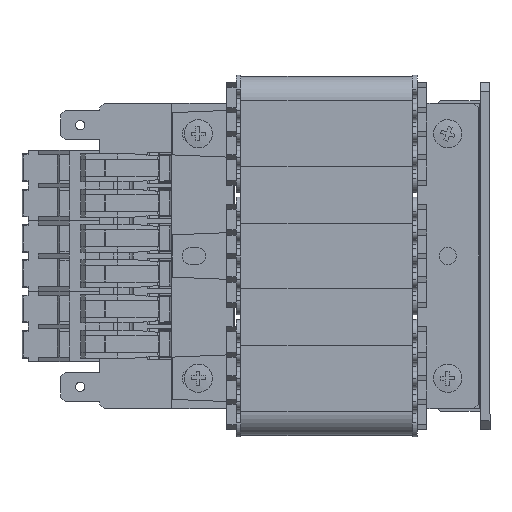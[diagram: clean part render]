
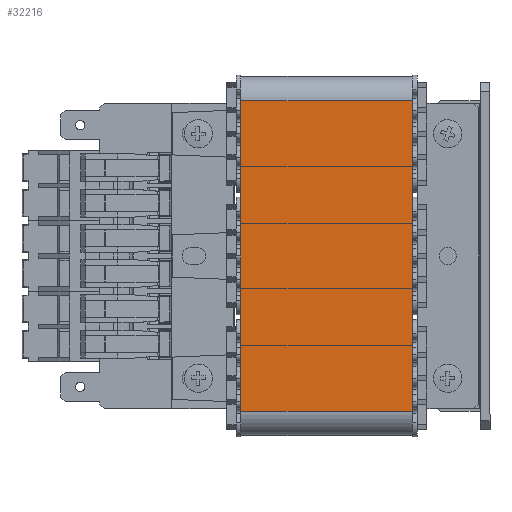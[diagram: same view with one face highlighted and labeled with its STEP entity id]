
A CAD part, left-side view. The second image highlights one B-rep face of the part: STEP entity #32216.
In plain terms, the highlighted planar face has unit normal (-1, 0, 0) as drawn and (0, 0, 1) by its records, which use the part's own axes.
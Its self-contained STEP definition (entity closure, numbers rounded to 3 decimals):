
#244 = VERTEX_POINT ( 'NONE', #4666 ) ;
#647 = EDGE_CURVE ( 'NONE', #244, #54136, #16713, .T. ) ;
#1813 = CARTESIAN_POINT ( 'NONE',  ( -33., 0., 14.2 ) ) ;
#2439 = VERTEX_POINT ( 'NONE', #1813 ) ;
#3417 = VECTOR ( 'NONE', #29849, 1000. ) ;
#4562 = DIRECTION ( 'NONE',  ( 1., 0., 0. ) ) ;
#4666 = CARTESIAN_POINT ( 'NONE',  ( -33., 36.5, 14.2 ) ) ;
#9691 = EDGE_CURVE ( 'NONE', #2439, #66645, #48271, .T. ) ;
#16713 = LINE ( 'NONE', #67605, #82001 ) ;
#18238 = LINE ( 'NONE', #74139, #3417 ) ;
#24925 = CARTESIAN_POINT ( 'NONE',  ( 33., 36.5, 14.2 ) ) ;
#29849 = DIRECTION ( 'NONE',  ( 0., -1., 0. ) ) ;
#32216 = ADVANCED_FACE ( 'NONE', ( #32950 ), #48863, .F. ) ;
#32950 = FACE_OUTER_BOUND ( 'NONE', #77439, .T. ) ;
#33271 = CARTESIAN_POINT ( 'NONE',  ( 33., 36.5, 14.2 ) ) ;
#36088 = AXIS2_PLACEMENT_3D ( 'NONE', #61609, #74372, #36483 ) ;
#36483 = DIRECTION ( 'NONE',  ( -1., 0., 0. ) ) ;
#42540 = DIRECTION ( 'NONE',  ( 1., 0., 0. ) ) ;
#43870 = EDGE_CURVE ( 'NONE', #244, #2439, #18238, .T. ) ;
#44213 = ORIENTED_EDGE ( 'NONE', *, *, #43870, .T. ) ;
#45453 = LINE ( 'NONE', #24925, #58409 ) ;
#48271 = LINE ( 'NONE', #55042, #61166 ) ;
#48346 = EDGE_CURVE ( 'NONE', #54136, #66645, #45453, .T. ) ;
#48863 = PLANE ( 'NONE',  #36088 ) ;
#54136 = VERTEX_POINT ( 'NONE', #33271 ) ;
#55042 = CARTESIAN_POINT ( 'NONE',  ( -33., 0., 14.2 ) ) ;
#55623 = ORIENTED_EDGE ( 'NONE', *, *, #48346, .F. ) ;
#58409 = VECTOR ( 'NONE', #62799, 1000. ) ;
#61166 = VECTOR ( 'NONE', #42540, 1000. ) ;
#61609 = CARTESIAN_POINT ( 'NONE',  ( -33., 36.5, 14.2 ) ) ;
#62799 = DIRECTION ( 'NONE',  ( 0., -1., 0. ) ) ;
#65316 = CARTESIAN_POINT ( 'NONE',  ( 33., 0., 14.2 ) ) ;
#66645 = VERTEX_POINT ( 'NONE', #65316 ) ;
#67605 = CARTESIAN_POINT ( 'NONE',  ( -33., 36.5, 14.2 ) ) ;
#73573 = ORIENTED_EDGE ( 'NONE', *, *, #9691, .T. ) ;
#74139 = CARTESIAN_POINT ( 'NONE',  ( -33., 36.5, 14.2 ) ) ;
#74372 = DIRECTION ( 'NONE',  ( 0., 0., -1. ) ) ;
#77439 = EDGE_LOOP ( 'NONE', ( #73573, #55623, #80613, #44213 ) ) ;
#80613 = ORIENTED_EDGE ( 'NONE', *, *, #647, .F. ) ;
#82001 = VECTOR ( 'NONE', #4562, 1000. ) ;
